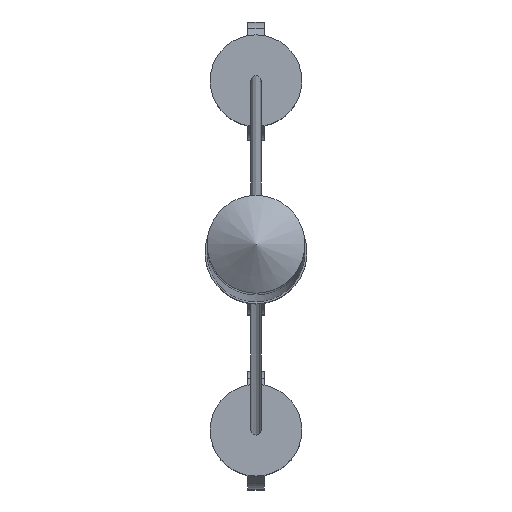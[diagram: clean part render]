
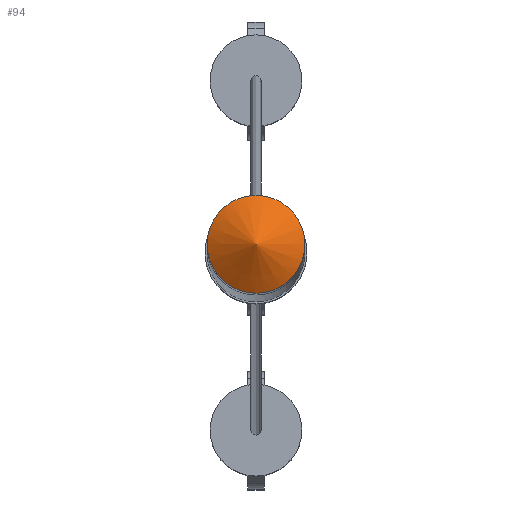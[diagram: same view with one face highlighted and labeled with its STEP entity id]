
A CAD part, top view. The second image highlights one B-rep face of the part: STEP entity #94.
In plain terms, the highlighted conical face has half-angle 60 degrees and reference radius 2.401 mm.
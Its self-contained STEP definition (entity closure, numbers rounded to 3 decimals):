
#94 = ADVANCED_FACE ( 'NONE', ( #1836 ), #2310, .T. ) ;
#219 = CARTESIAN_POINT ( 'NONE',  ( 2.401, 6.548, 67.129 ) ) ;
#402 = EDGE_CURVE ( 'NONE', #1943, #1943, #1505, .T. ) ;
#943 = AXIS2_PLACEMENT_3D ( 'NONE', #1448, #2373, #2197 ) ;
#989 = ORIENTED_EDGE ( 'NONE', *, *, #402, .T. ) ;
#1226 = CARTESIAN_POINT ( 'NONE',  ( 0., 6.548, 67.129 ) ) ;
#1377 = AXIS2_PLACEMENT_3D ( 'NONE', #1226, #2201, #1854 ) ;
#1448 = CARTESIAN_POINT ( 'NONE',  ( 0., 6.548, 67.129 ) ) ;
#1463 = EDGE_LOOP ( 'NONE', ( #989 ) ) ;
#1505 = CIRCLE ( 'NONE', #943, 2.401 ) ;
#1836 = FACE_OUTER_BOUND ( 'NONE', #1463, .T. ) ;
#1854 = DIRECTION ( 'NONE',  ( -1., 0., 0. ) ) ;
#1943 = VERTEX_POINT ( 'NONE', #219 ) ;
#2197 = DIRECTION ( 'NONE',  ( 1., 0., 0. ) ) ;
#2201 = DIRECTION ( 'NONE',  ( 0., 0., -1. ) ) ;
#2310 = CONICAL_SURFACE ( 'NONE', #1377, 2.401, 1.047 ) ;
#2373 = DIRECTION ( 'NONE',  ( 0., 0., 1. ) ) ;
